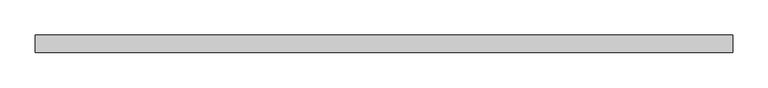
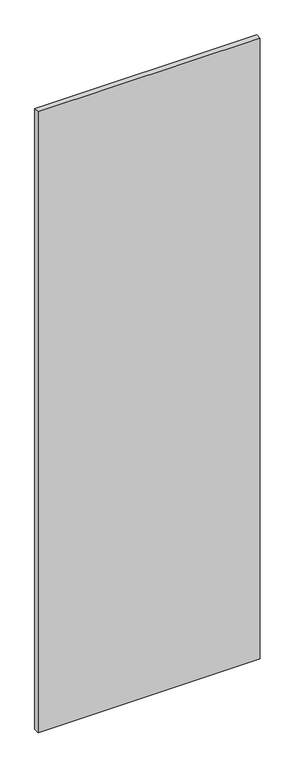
"""IFC4 building model written with IfcOpenShell, lengths in millimetres: plate geometry, Системная панель : ADSK_Cтеклопакет_25."""

import ifcopenshell
import ifcopenshell.guid

model = None  # the IFC model being written
_history = None  # IfcOwnerHistory: only IFC2X3 demands one
_inside = {}  # id of a spatial element -> (the spatial element, [elements in it])
_under = {}  # id of a project, library or spatial element -> (it, [spatial elements below it])
_declared = {}  # id of a project -> (the project, [libraries it declares])
_typed = {}  # id of a type object -> (the type object, [elements of that type])
_made_of = {}  # id of a material, layer set ... -> (it, [elements and type objects made of it])


def new_model(schema):
    """Start an empty IFC model of exactly this schema.

    Asked for "IFC4X3", IfcOpenShell would pick the latest addendum, in which some entities
    have other attributes; the version numbers below select the first issue.
    IFC2X3 requires an IfcOwnerHistory on every rooted entity: one is made here for all.
    """
    global model, _history
    if schema == "IFC4X3":
        model = ifcopenshell.file(schema_version=(4, 3, 0, 0))
    else:
        model = ifcopenshell.file(schema=schema)
    _inside.clear()
    _under.clear()
    _declared.clear()
    _typed.clear()
    _made_of.clear()
    _history = None
    if model.schema == "IFC2X3":
        org = make("IfcOrganization", Name="unknown")
        user = make(
            "IfcPersonAndOrganization",
            ThePerson=make("IfcPerson", FamilyName="unknown"),
            TheOrganization=org,
        )
        app = make(
            "IfcApplication",
            ApplicationDeveloper=org,
            Version="unknown",
            ApplicationFullName="unknown",
            ApplicationIdentifier="unknown",
        )
        _history = make(
            "IfcOwnerHistory",
            OwningUser=user,
            OwningApplication=app,
            ChangeAction="ADDED",
            CreationDate=0,
        )
    return model


def make(cls, **values):
    """One entity of the class cls with the attributes given. An attribute that is None is left unset."""
    return model.create_entity(
        cls, **{name: value for name, value in values.items() if value is not None}
    )


def rooted(cls, **values):
    """An entity with a GlobalId (a new one), such as an element, a storey or a relation."""
    return make(cls, GlobalId=ifcopenshell.guid.new(), OwnerHistory=_history, **values)


def si_unit(unit_type, name, prefix=None):
    """IfcSIUnit, for example si_unit("LENGTHUNIT", "METRE", prefix="MILLI")."""
    return make("IfcSIUnit", UnitType=unit_type, Prefix=prefix, Name=name)


def assignment(units):
    """IfcUnitAssignment: the units of a project."""
    return None if units is None else make("IfcUnitAssignment", Units=units)


def point(xyz):
    """IfcCartesianPoint."""
    return None if xyz is None else make("IfcCartesianPoint", Coordinates=xyz)


def direction(xyz):
    """IfcDirection."""
    return None if xyz is None else make("IfcDirection", DirectionRatios=xyz)


def frame(location, z_axis=None, x_axis=None):
    """IfcAxis2Placement3D, a coordinate frame: its origin and axes. An axis left out is left unset."""
    return make(
        "IfcAxis2Placement3D",
        Location=point(location),
        Axis=direction(z_axis),
        RefDirection=direction(x_axis),
    )


def origin():
    """The frame at (0, 0, 0) with its axes left unset."""
    return frame((0.0, 0.0, 0.0))


def origin_with_axes():
    """The frame at (0, 0, 0) with the z axis (0, 0, 1) and the x axis (1, 0, 0) written out."""
    return frame((0.0, 0.0, 0.0), z_axis=(0.0, 0.0, 1.0), x_axis=(1.0, 0.0, 0.0))


def place(relative_to, where):
    """IfcLocalPlacement: puts the frame where relative to a parent placement (None: the world)."""
    return make(
        "IfcLocalPlacement", PlacementRelTo=relative_to, RelativePlacement=where
    )


def context(
    kind, dimensions, precision=None, world=None, true_north=None, identifier=None
):
    """IfcGeometricRepresentationContext, for example the 3D "Model" context."""
    return make(
        "IfcGeometricRepresentationContext",
        ContextIdentifier=identifier,
        ContextType=kind,
        CoordinateSpaceDimension=dimensions,
        Precision=precision,
        WorldCoordinateSystem=world,
        TrueNorth=true_north,
    )


def project(units=None, contexts=None):
    """IfcProject with its units and contexts."""
    return rooted(
        "IfcProject",
        Name="project",
        RepresentationContexts=contexts,
        UnitsInContext=assignment(units),
    )


def spatial(cls, under=None, at=None, **own):
    """A site, building, storey or space (cls), placed at a placement, below another one or the project."""
    s = rooted(cls, ObjectPlacement=at, **own)
    if under is not None:
        _under.setdefault(under.id(), (under, []))[1].append(s)
    return s


def polyline(points):
    """IfcPolyline through the points."""
    return make("IfcPolyline", Points=[point(p) for p in points])


def outline(outer, holes=None, kind="AREA"):
    """IfcArbitraryClosedProfileDef: a profile drawn as a closed curve; with holes, ...WithVoids."""
    if holes is None:
        return make("IfcArbitraryClosedProfileDef", ProfileType=kind, OuterCurve=outer)
    return make(
        "IfcArbitraryProfileDefWithVoids",
        ProfileType=kind,
        OuterCurve=outer,
        InnerCurves=holes,
    )


def extrude(swept, where, along, depth):
    """IfcExtrudedAreaSolid: the profile swept, set in the frame where, extruded along a direction by depth."""
    return make(
        "IfcExtrudedAreaSolid",
        SweptArea=swept,
        Position=where,
        ExtrudedDirection=direction(along),
        Depth=depth,
    )


def shape(context_of_items, identifier, shape_type, items):
    """IfcShapeRepresentation: the items that make up one representation, for example the "Body"."""
    return make(
        "IfcShapeRepresentation",
        ContextOfItems=context_of_items,
        RepresentationIdentifier=identifier,
        RepresentationType=shape_type,
        Items=items,
    )


def source(mapping_origin, context_of_items, identifier, shape_type, items):
    """IfcRepresentationMap: a shape defined once, which mapped items show again and again."""
    return make(
        "IfcRepresentationMap",
        MappingOrigin=mapping_origin,
        MappedRepresentation=shape(context_of_items, identifier, shape_type, items),
    )


def transform(
    local_origin,
    x_axis=None,
    y_axis=None,
    z_axis=None,
    scale=None,
    scale2=None,
    scale3=None,
    uniform=True,
):
    """IfcCartesianTransformationOperator3D, or its non-uniform kind. x_axis, y_axis, z_axis: its Axis1, 2, 3."""
    if uniform:
        return make(
            "IfcCartesianTransformationOperator3D",
            Axis1=direction(x_axis),
            Axis2=direction(y_axis),
            LocalOrigin=point(local_origin),
            Scale=scale,
            Axis3=direction(z_axis),
        )
    return make(
        "IfcCartesianTransformationOperator3DnonUniform",
        Axis1=direction(x_axis),
        Axis2=direction(y_axis),
        LocalOrigin=point(local_origin),
        Scale=scale,
        Axis3=direction(z_axis),
        Scale2=scale2,
        Scale3=scale3,
    )


def mapped(mapping_source, mapping_target):
    """IfcMappedItem: shows the shape of a source again, moved by a transform."""
    return make(
        "IfcMappedItem", MappingSource=mapping_source, MappingTarget=mapping_target
    )


def made_of(thing, what):
    """Note that an element or type object is made of a material, layer set ...; save() writes the relation."""
    if what is not None:
        _made_of.setdefault(what.id(), (what, []))[1].append(thing)
    return thing


def element(
    cls,
    number,
    at=None,
    inside=None,
    cuts=None,
    type_object=None,
    material=None,
    context=None,
    identifier="Body",
    shape_type=None,
    held_by="IfcProductDefinitionShape",
    body=None,
    shapes=None,
    **own,
):
    """One element of the class cls, such as IfcWall. Its Tag is "e" and its number.

    at: its placement. inside: the storey or other place that contains it. cuts: it is an
    opening in that element (IfcRelVoidsElement). A single representation is given by context,
    identifier, shape_type and body (its items); several are given by shapes. held_by: the class
    of the entity that holds the representations. save() writes the other relations.
    """
    e = rooted(cls, Tag="e%d" % number, ObjectPlacement=at, **own)
    if body is not None:
        shapes = [shape(context, identifier, shape_type, body)]
    if shapes is not None:
        e.Representation = make(held_by, Representations=shapes)
    if inside is not None:
        _inside.setdefault(inside.id(), (inside, []))[1].append(e)
    if cuts is not None:
        rooted(
            "IfcRelVoidsElement", RelatingBuildingElement=cuts, RelatedOpeningElement=e
        )
    if type_object is not None:
        _typed.setdefault(type_object.id(), (type_object, []))[1].append(e)
    return made_of(e, material)


def aggregate(whole, parts):
    """IfcRelAggregates: a whole, such as a stair, and the parts it consists of."""
    return rooted("IfcRelAggregates", RelatingObject=whole, RelatedObjects=parts)


def save(model, path):
    """Write the relations noted so far, then the file.

    IfcRelAggregates (storeys below a building ...), IfcRelContainedInSpatialStructure (elements
    in a storey), IfcRelDefinesByType, IfcRelAssociatesMaterial and IfcRelDeclares: one each for
    every whole, place, type object, material and project.
    """
    for whole, parts in _under.values():
        aggregate(whole, parts)
    for where, things in _inside.values():
        rooted(
            "IfcRelContainedInSpatialStructure",
            RelatedElements=things,
            RelatingStructure=where,
        )
    for kind, things in _typed.values():
        rooted("IfcRelDefinesByType", RelatedObjects=things, RelatingType=kind)
    for what, things in _made_of.values():
        rooted("IfcRelAssociatesMaterial", RelatedObjects=things, RelatingMaterial=what)
    for by, libraries in _declared.values():
        rooted("IfcRelDeclares", RelatingContext=by, RelatedDefinitions=libraries)
    model.write(path)


def plate_e346a334(model_context):
    return source(origin(), model_context, "Body", "SweptSolid", [
        extrude(outline(polyline([(495.0, -12.5), (-495.0, -12.5), (-495.0, 12.5), (495.0, 12.5), (495.0, -12.5)])), origin_with_axes(), (0.0, 0.0, 1.0), 2925.0),
    ])


if __name__ == "__main__":
    model = new_model("IFC4")
    model_context = context("Model", 3, world=origin())
    ifc_project = project(units=[si_unit("LENGTHUNIT", "METRE", prefix="MILLI")], contexts=[model_context])
    site = spatial("IfcSite", under=ifc_project)
    building = spatial("IfcBuilding", under=site)
    placement = place(None, origin())
    plate_shape = plate_e346a334(model_context)
    element("IfcPlate", 1, ObjectType="Системная панель : ADSK_Cтеклопакет_25", at=placement, inside=building, context=model_context, shape_type="MappedRepresentation", body=[
        mapped(plate_shape, transform((0.0, 0.0, 0.0), x_axis=(1.0, 0.0, 0.0), y_axis=(0.0, 1.0, 0.0), z_axis=(0.0, 0.0, 1.0))),
    ])
    save(model, "model.ifc")
